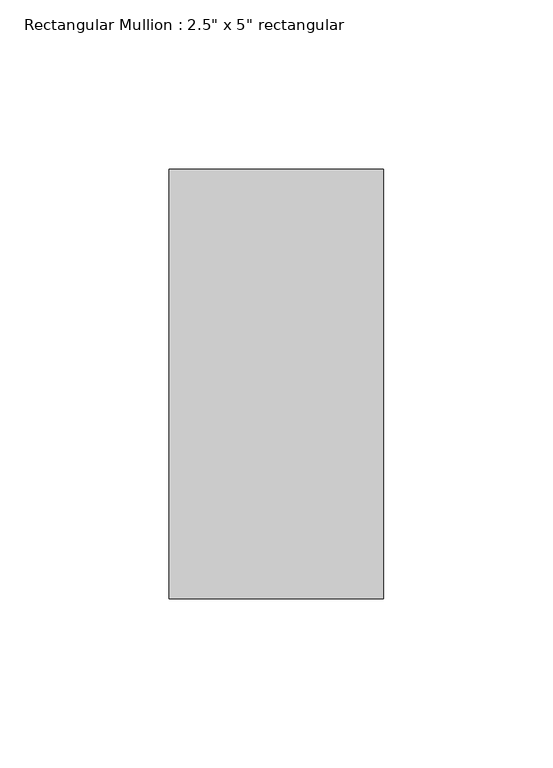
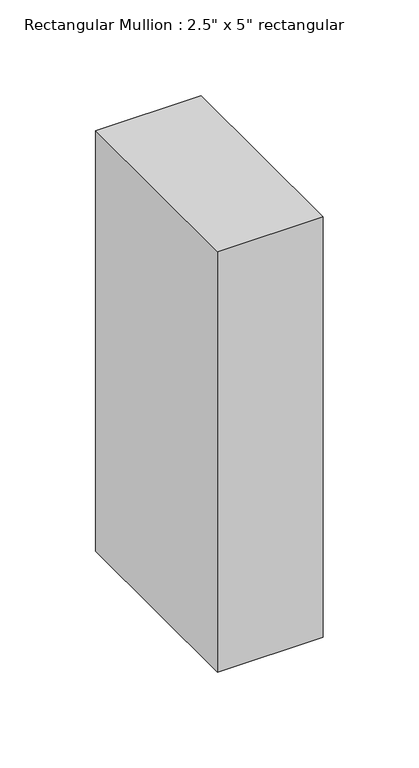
"""IFC4 building model written with IfcOpenShell, lengths in millimetres: member geometry."""

from ifc_helpers import new_model, si_unit, frame, origin, place, context, project, spatial, polyline, outline, extrude, source, transform, mapped, element, save


def member_40e8ea34(model_context):
    return source(origin(), model_context, "Body", "SweptSolid", [
        extrude(outline(polyline([(31.75, 63.5), (31.75, -63.5), (-31.75, -63.5), (-31.75, 63.5), (31.75, 63.5)])), frame((0.0, 0.0, -267.49375), z_axis=(0.0, 0.0, 1.0), x_axis=(1.0, 0.0, 0.0)), (0.0, 0.0, 1.0), 267.49375),
    ])


if __name__ == "__main__":
    model = new_model("IFC4")
    model_context = context("Model", 3, world=origin())
    ifc_project = project(units=[si_unit("LENGTHUNIT", "METRE", prefix="MILLI")], contexts=[model_context])
    site = spatial("IfcSite", under=ifc_project)
    building = spatial("IfcBuilding", under=site)
    placement = place(None, origin())
    member_shape = member_40e8ea34(model_context)
    element("IfcMember", 1, ObjectType="Rectangular Mullion : 2.5\" x 5\" rectangular", at=placement, inside=building, context=model_context, shape_type="MappedRepresentation", body=[
        mapped(member_shape, transform((0.0, 0.0, 0.0), x_axis=(1.0, 0.0, 0.0), y_axis=(0.0, 1.0, 0.0), z_axis=(0.0, 0.0, 1.0))),
    ])
    save(model, "model.ifc")
